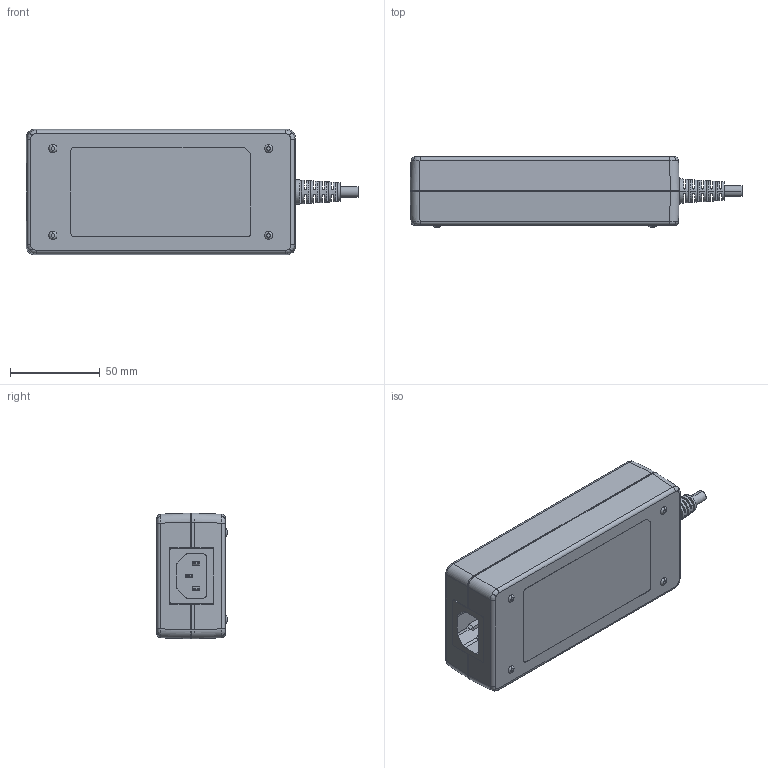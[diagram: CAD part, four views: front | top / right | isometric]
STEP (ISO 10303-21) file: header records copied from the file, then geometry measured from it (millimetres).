
FILE_DESCRIPTION (( 'STEP AP214' ), '1' );
FILE_NAME ('TR160M²Õ¦X¥ó.STEP', '2022-07-28T09:09:35', ( '' ), ( '' ), 'SwSTEP 2.0', 'SolidWorks 2020', '' );
FILE_SCHEMA (( 'AUTOMOTIVE_DESIGN' ));
Length unit declared in the file: millimetre
Products named in the file (6): SR030; C14(IEC 60320)插頭(R-301SN(95))-1050322; TR160M下蓋 G5669101A05 M-B462-00-M; TR160M組合件; TR160M上蓋 G5669100A05 M-B461-00-M; LED燈罩(M-B145-03-M)G5646245130
Assembly tree (5 placements, depth 2):
  TR160M組合件
    TR160M下蓋 G5669101A05 M-B462-00-M
    TR160M上蓋 G5669100A05 M-B461-00-M
    C14(IEC 60320)插頭(R-301SN(95))-1050322
    LED燈罩(M-B145-03-M)G5646245130
    SR030
Bounding box: 184.8 x 39 x 70 mm (x, y, z)
Volume: 76322.2 mm3; surface area: 81791 mm2
Topology: 5 solids, 5 shells, 570 faces, 1503 edges, 986 vertices
Faces by surface type: plane 389, cylinder 115, cone 34, bspline 20, torus 12
Entity records: 18425 total; most frequent: CARTESIAN_POINT 4207, ORIENTED_EDGE 3006, DIRECTION 2749, EDGE_CURVE 1503, VECTOR 1077, LINE 1077, VERTEX_POINT 986, AXIS2_PLACEMENT_3D 836
